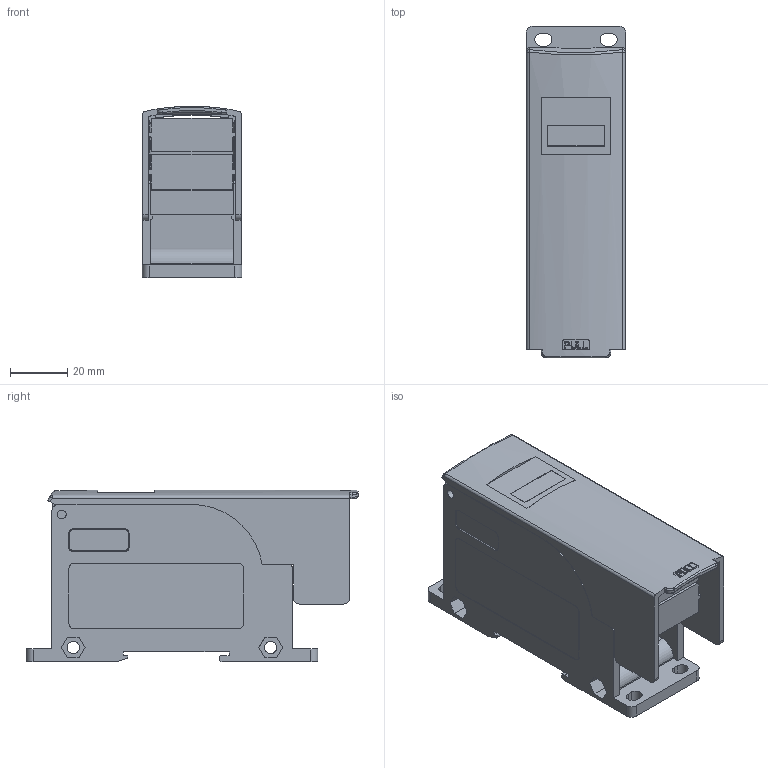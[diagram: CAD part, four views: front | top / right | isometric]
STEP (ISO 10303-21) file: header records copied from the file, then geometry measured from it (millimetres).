
FILE_DESCRIPTION(/* description */ (''),/* implementation_level */ '2;1');
FILE_NAME(/* name */ 'SPS35-S.stp',/* time_stamp */ '2019-11-01T08:31:01+09:00',/* author */ (''),/* organization */ (''),/* preprocessor_version */ 'ST-DEVELOPER v16.7',/* originating_system */ 'SIEMENS PLM Software NX 12.0',/* authorisation */ '');
FILE_SCHEMA (('AP203_CONFIGURATION_CONTROLLED_3D_DESIGN_OF_MECHANICAL_PARTS_AND_ASSEMBLIES_MIM_LF { 1 0 10303 403 2 1 2}'));
Length unit declared in the file: millimetre
Products named in the file (1): kim79EC393D9iiv
Bounding box: 34.8 x 116 x 59.99 mm (x, y, z)
Volume: 103801.4 mm3; surface area: 38037.7 mm2
Topology: 1 solids, 1 shells, 304 faces, 845 edges, 559 vertices
Faces by surface type: plane 208, cylinder 75, cone 6, extrusion 6, bspline 5, sphere 2, torus 2
Full cylindrical faces by diameter (mm): 3.1 x2, 4.3 x2
Entity records: 10363 total; most frequent: CARTESIAN_POINT 2336, ORIENTED_EDGE 1686, DIRECTION 1577, EDGE_CURVE 843, VECTOR 633, LINE 627, VERTEX_POINT 563, AXIS2_PLACEMENT_3D 472
